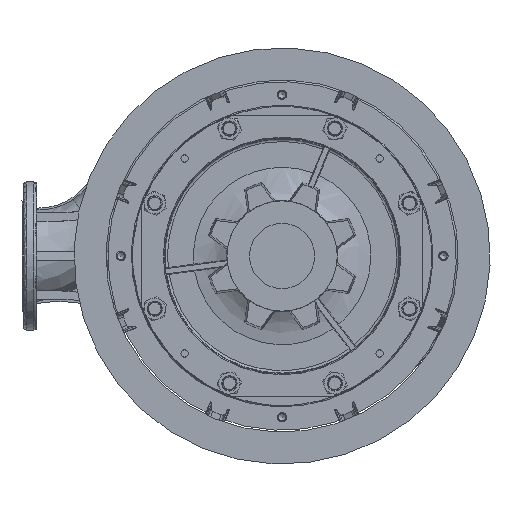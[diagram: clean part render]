
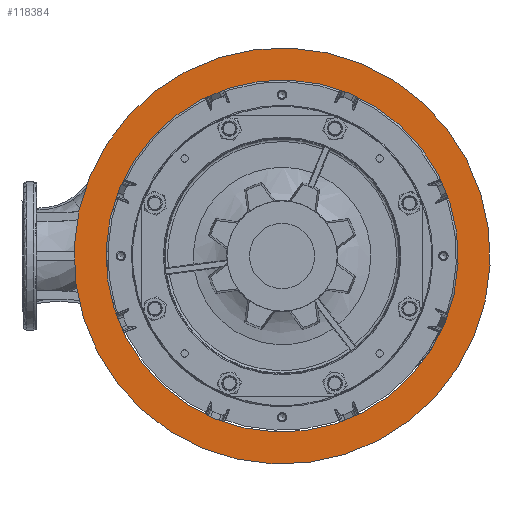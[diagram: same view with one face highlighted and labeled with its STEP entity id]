
A CAD part, front view. The second image highlights one B-rep face of the part: STEP entity #118384.
In plain terms, the highlighted planar face has unit normal (0, -1, 0).
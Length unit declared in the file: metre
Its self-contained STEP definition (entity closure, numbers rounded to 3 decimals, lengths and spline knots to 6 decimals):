
#2589 = EDGE_CURVE ( 'NONE', #140841, #140841, #58415, .T. ) ;
#3019 = CIRCLE ( 'NONE', #82043, 0.4 ) ;
#10906 = CARTESIAN_POINT ( 'NONE',  ( -0.369552, -0.67, 0.153073 ) ) ;
#20949 = CARTESIAN_POINT ( 'NONE',  ( 0., -0.67, 0. ) ) ;
#25496 = FACE_BOUND ( 'NONE', #137441, .T. ) ;
#30589 = DIRECTION ( 'NONE',  ( 0.383, 0., 0.924 ) ) ;
#49705 = ORIENTED_EDGE ( 'NONE', *, *, #2589, .T. ) ;
#54455 = AXIS2_PLACEMENT_3D ( 'NONE', #10906, #80092, #102968 ) ;
#58415 = CIRCLE ( 'NONE', #138674, 0.3385 ) ;
#60151 = ORIENTED_EDGE ( 'NONE', *, *, #66832, .F. ) ;
#65950 = CARTESIAN_POINT ( 'NONE',  ( 0., -0.67, 0. ) ) ;
#66832 = EDGE_CURVE ( 'NONE', #132521, #132521, #3019, .T. ) ;
#71828 = FACE_OUTER_BOUND ( 'NONE', #74100, .T. ) ;
#74100 = EDGE_LOOP ( 'NONE', ( #60151 ) ) ;
#76264 = DIRECTION ( 'NONE',  ( 0., 1., 0. ) ) ;
#77870 = DIRECTION ( 'NONE',  ( 0., 1., 0. ) ) ;
#80092 = DIRECTION ( 'NONE',  ( 0., -1., 0. ) ) ;
#82043 = AXIS2_PLACEMENT_3D ( 'NONE', #65950, #77870, #30589 ) ;
#83955 = CARTESIAN_POINT ( 'NONE',  ( 0.153073, -0.67, 0.369552 ) ) ;
#89980 = CARTESIAN_POINT ( 'NONE',  ( 0.129538, -0.67, 0.312733 ) ) ;
#101127 = DIRECTION ( 'NONE',  ( 0.383, 0., 0.924 ) ) ;
#102478 = PLANE ( 'NONE',  #54455 ) ;
#102968 = DIRECTION ( 'NONE',  ( -0.383, 0., -0.924 ) ) ;
#118384 = ADVANCED_FACE ( 'NONE', ( #25496, #71828 ), #102478, .T. ) ;
#132521 = VERTEX_POINT ( 'NONE', #83955 ) ;
#137441 = EDGE_LOOP ( 'NONE', ( #49705 ) ) ;
#138674 = AXIS2_PLACEMENT_3D ( 'NONE', #20949, #76264, #101127 ) ;
#140841 = VERTEX_POINT ( 'NONE', #89980 ) ;
